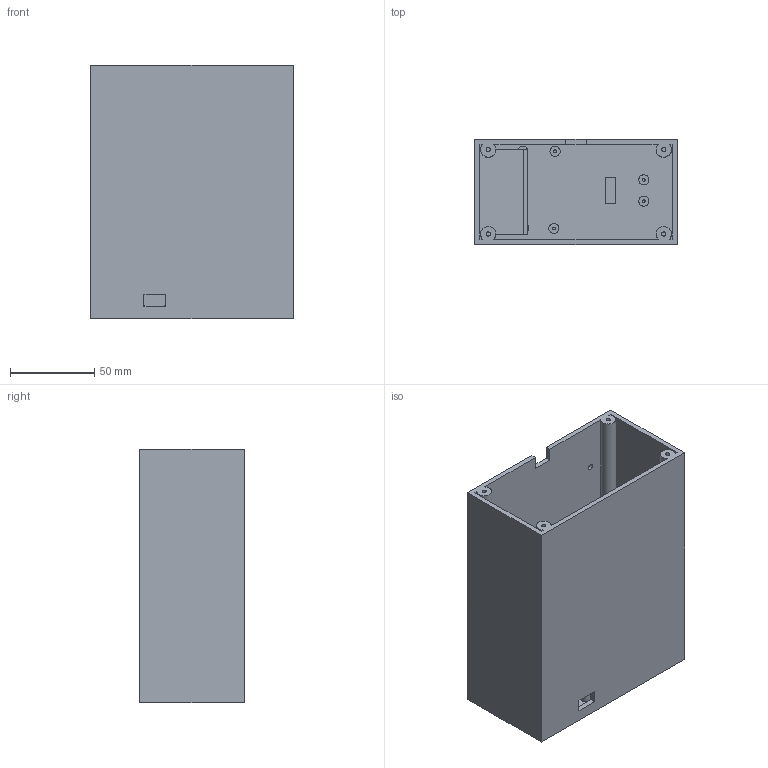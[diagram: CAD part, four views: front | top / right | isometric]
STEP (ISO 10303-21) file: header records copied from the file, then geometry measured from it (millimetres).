
FILE_DESCRIPTION(('Open CASCADE Model'),'2;1');
FILE_NAME('Open CASCADE Shape Model','2026-07-25T17:38:06',('Author'),( 'Open CASCADE'),'Open CASCADE STEP processor 7.9','build123d', 'Unknown');
FILE_SCHEMA(('AUTOMOTIVE_DESIGN { 1 0 10303 214 1 1 1 1 }'));
Length unit declared in the file: millimetre
Products named in the file (1): COMPOUND
Bounding box: 120 x 62 x 150 mm (x, y, z)
Volume: 215815.5 mm3; surface area: 132403.7 mm2
Topology: 1 solids, 1 shells, 607 faces, 1635 edges, 1090 vertices
Faces by surface type: extrusion 335, plane 248, cylinder 24
Full cylindrical faces by diameter (mm): 1.7 x6, 2.5 x4, 3.4 x4, 6 x6
Entity records: 46460 total; most frequent: CARTESIAN_POINT 17237, DIRECTION 3780, ORIENTED_EDGE 3270, PCURVE 3270, DEFINITIONAL_REPRESENTATION 3270, VECTOR 3090, LINE 2755, B_SPLINE_CURVE_WITH_KNOTS 2381
